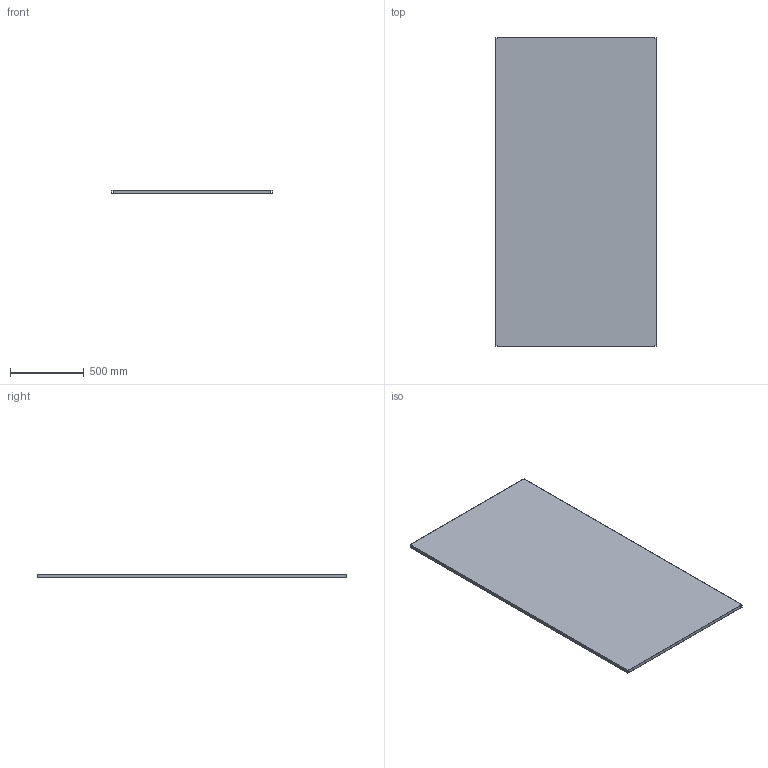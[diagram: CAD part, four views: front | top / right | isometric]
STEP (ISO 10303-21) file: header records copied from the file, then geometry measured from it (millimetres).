
FILE_DESCRIPTION( ( 'STEP AP214' ), '1' );
FILE_NAME( 'p:/temp/worker_144/temp/exporttempdir_1852_230_RRjFf/format_0/MP2212(0).stp', '2021-03-15T23:26:19', ( 'License CC BY-ND 4.0' ), ( 'CADENAS' ), ' ', 'PARTsolutions', ' ' );
FILE_SCHEMA( ( 'AUTOMOTIVE_DESIGN { 1 0 10303 214 1 1 1 1 }' ) );
Length unit declared in the file: millimetre
Products named in the file (2): MP2212(0); _MP2212(0)_P1
Assembly tree (1 placements, depth 2):
  MP2212(0)
    _MP2212(0)_P1
Bounding box: 1094 x 2094 x 24.5 mm (x, y, z)
Volume: 7470474 mm3; surface area: 5000230 mm2
Topology: 1 solids, 1 shells, 42 faces, 120 edges, 80 vertices
Faces by surface type: plane 42
Entity records: 1718 total; most frequent: CARTESIAN_POINT 244, ORIENTED_EDGE 240, DIRECTION 208, EDGE_CURVE 120, LINE 120, VECTOR 120, VERTEX_POINT 80, AXIS2_PLACEMENT_3D 44
